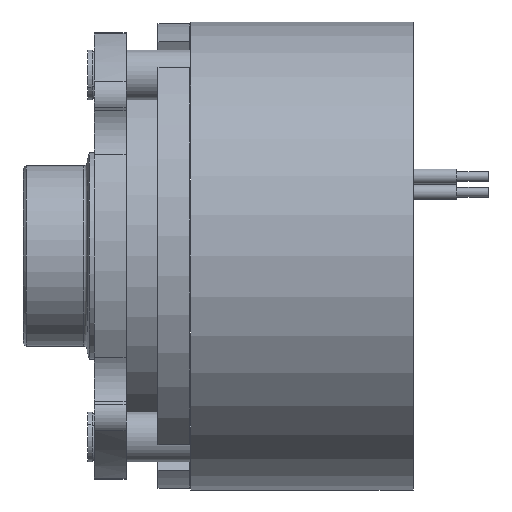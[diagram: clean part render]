
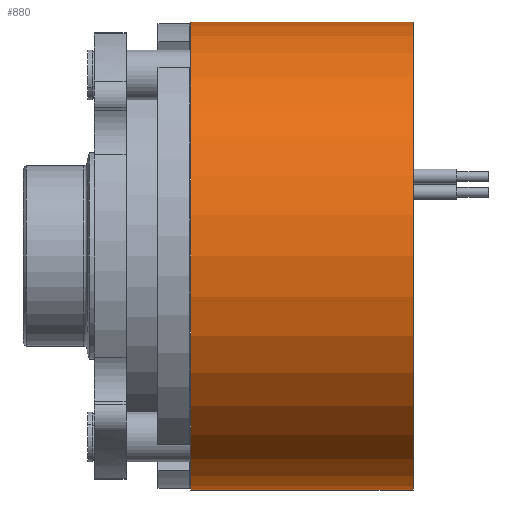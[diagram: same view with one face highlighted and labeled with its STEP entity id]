
A CAD part, front view. The second image highlights one B-rep face of the part: STEP entity #880.
In plain terms, the highlighted cylindrical face has radius 22 mm (diameter 44 mm), a partial arc.
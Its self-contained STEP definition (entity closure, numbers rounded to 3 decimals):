
#498 = DIRECTION ( 'NONE',  ( -1., 0., 0. ) ) ;
#538 = VERTEX_POINT ( 'NONE', #3831 ) ;
#724 = DIRECTION ( 'NONE',  ( 0., 0., 1. ) ) ;
#759 = EDGE_LOOP ( 'NONE', ( #3601, #763, #2661, #2906 ) ) ;
#763 = ORIENTED_EDGE ( 'NONE', *, *, #2538, .T. ) ;
#773 = CARTESIAN_POINT ( 'NONE',  ( 0., 0., -22. ) ) ;
#809 = AXIS2_PLACEMENT_3D ( 'NONE', #3088, #3148, #2767 ) ;
#880 = ADVANCED_FACE ( 'NONE', ( #4039 ), #2803, .T. ) ;
#960 = VECTOR ( 'NONE', #3424, 1000. ) ;
#975 = VERTEX_POINT ( 'NONE', #3584 ) ;
#1067 = AXIS2_PLACEMENT_3D ( 'NONE', #1746, #3791, #724 ) ;
#1220 = DIRECTION ( 'NONE',  ( -1., 0., 0. ) ) ;
#1253 = CARTESIAN_POINT ( 'NONE',  ( 20.9, 0., 0. ) ) ;
#1685 = EDGE_CURVE ( 'NONE', #975, #3423, #3432, .T. ) ;
#1746 = CARTESIAN_POINT ( 'NONE',  ( 0., 0., 0. ) ) ;
#2072 = EDGE_CURVE ( 'NONE', #538, #3423, #4034, .T. ) ;
#2460 = LINE ( 'NONE', #773, #2564 ) ;
#2463 = AXIS2_PLACEMENT_3D ( 'NONE', #1253, #498, #3672 ) ;
#2538 = EDGE_CURVE ( 'NONE', #2868, #975, #3678, .T. ) ;
#2564 = VECTOR ( 'NONE', #1220, 1000. ) ;
#2661 = ORIENTED_EDGE ( 'NONE', *, *, #1685, .T. ) ;
#2765 = CARTESIAN_POINT ( 'NONE',  ( 0., 0., 22. ) ) ;
#2767 = DIRECTION ( 'NONE',  ( 0., 0., 1. ) ) ;
#2803 = CYLINDRICAL_SURFACE ( 'NONE', #809, 22. ) ;
#2811 = EDGE_CURVE ( 'NONE', #2868, #538, #2460, .T. ) ;
#2868 = VERTEX_POINT ( 'NONE', #4351 ) ;
#2906 = ORIENTED_EDGE ( 'NONE', *, *, #2072, .F. ) ;
#3088 = CARTESIAN_POINT ( 'NONE',  ( 0., 0., 0. ) ) ;
#3148 = DIRECTION ( 'NONE',  ( -1., 0., 0. ) ) ;
#3156 = CARTESIAN_POINT ( 'NONE',  ( 0., 0., 22. ) ) ;
#3423 = VERTEX_POINT ( 'NONE', #2765 ) ;
#3424 = DIRECTION ( 'NONE',  ( -1., 0., 0. ) ) ;
#3432 = LINE ( 'NONE', #3156, #960 ) ;
#3584 = CARTESIAN_POINT ( 'NONE',  ( 20.9, 0., 22. ) ) ;
#3601 = ORIENTED_EDGE ( 'NONE', *, *, #2811, .F. ) ;
#3672 = DIRECTION ( 'NONE',  ( 0., 0., 1. ) ) ;
#3678 = CIRCLE ( 'NONE', #2463, 22. ) ;
#3791 = DIRECTION ( 'NONE',  ( -1., 0., 0. ) ) ;
#3831 = CARTESIAN_POINT ( 'NONE',  ( 0., 0., -22. ) ) ;
#4034 = CIRCLE ( 'NONE', #1067, 22. ) ;
#4039 = FACE_OUTER_BOUND ( 'NONE', #759, .T. ) ;
#4351 = CARTESIAN_POINT ( 'NONE',  ( 20.9, 0., -22. ) ) ;
